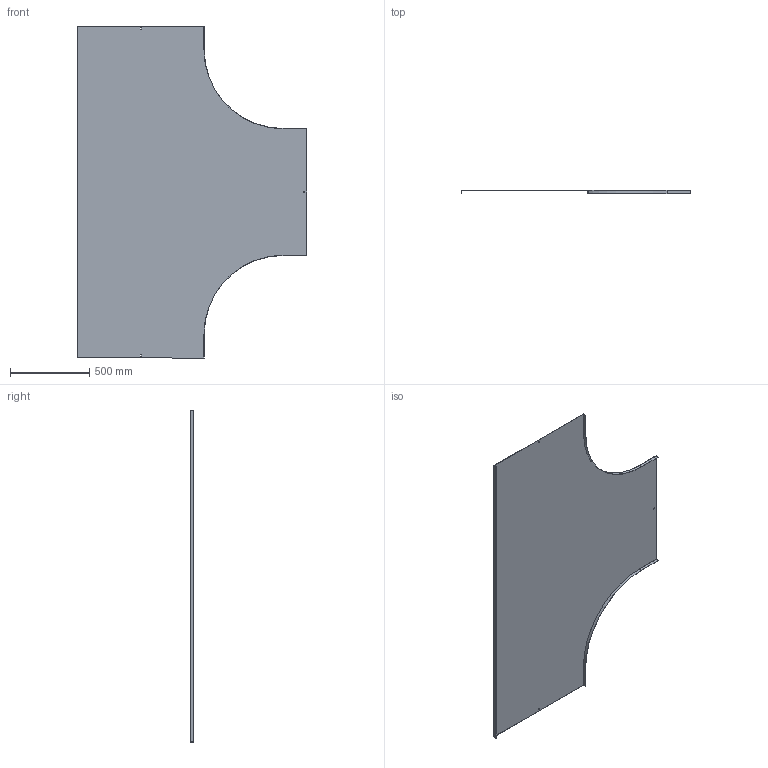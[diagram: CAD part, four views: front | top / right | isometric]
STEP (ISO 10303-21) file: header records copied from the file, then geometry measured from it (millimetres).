
FILE_DESCRIPTION (( 'STEP AP214' ), '1' );
FILE_NAME ('15N5R800.step', '2025-02-21T14:39:02', ( '' ), ( '' ), 'SwSTEP 2.0', 'SolidWorks 2023', '' );
FILE_SCHEMA (( 'AUTOMOTIVE_DESIGN' ));
Length unit declared in the file: millimetre
Products named in the file (1): 15N5R800
Bounding box: 1451.5 x 20 x 2100 mm (x, y, z)
Volume: 3588741.3 mm3; surface area: 4795307.1 mm2
Topology: 1 solids, 1 shells, 34 faces, 96 edges, 64 vertices
Faces by surface type: plane 30, cylinder 4
Entity records: 1123 total; most frequent: CARTESIAN_POINT 195, ORIENTED_EDGE 192, DIRECTION 174, EDGE_CURVE 96, VECTOR 88, LINE 88, VERTEX_POINT 64, AXIS2_PLACEMENT_3D 43
